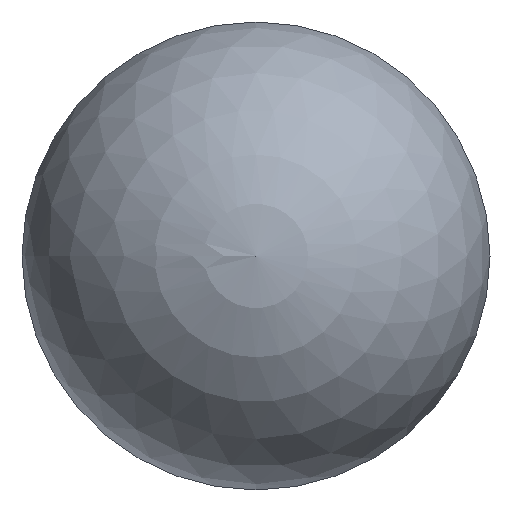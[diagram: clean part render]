
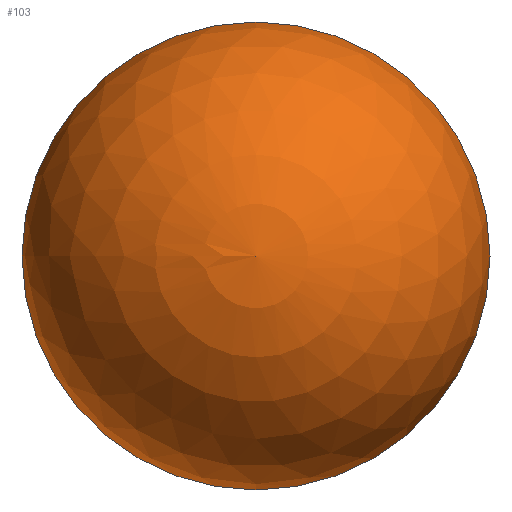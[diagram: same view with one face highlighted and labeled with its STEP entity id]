
A CAD part, left-side view. The second image highlights one B-rep face of the part: STEP entity #103.
In plain terms, the highlighted spherical face has radius 5 mm.
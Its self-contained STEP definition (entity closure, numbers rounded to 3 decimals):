
#101=SPHERICAL_SURFACE('',#134,5.);
#103=ADVANCED_FACE('',(#108),#101,.T.);
#108=FACE_OUTER_BOUND('',#110,.T.);
#110=EDGE_LOOP('',(#116));
#116=ORIENTED_EDGE('',*,*,#125,.T.);
#122=VERTEX_POINT('',#159);
#125=EDGE_CURVE('',#122,#122,#128,.T.);
#128=CIRCLE('',#133,5.);
#133=AXIS2_PLACEMENT_3D('',#158,#144,#145);
#134=AXIS2_PLACEMENT_3D('',#160,#146,#147);
#144=DIRECTION('',(-1.,0.,0.));
#145=DIRECTION('',(0.,-1.,0.));
#146=DIRECTION('',(-1.,0.,0.));
#147=DIRECTION('',(0.,1.,0.));
#158=CARTESIAN_POINT('',(7896.21,6133.599,0.));
#159=CARTESIAN_POINT('',(7896.21,6128.599,0.));
#160=CARTESIAN_POINT('',(7896.21,6133.599,0.));
